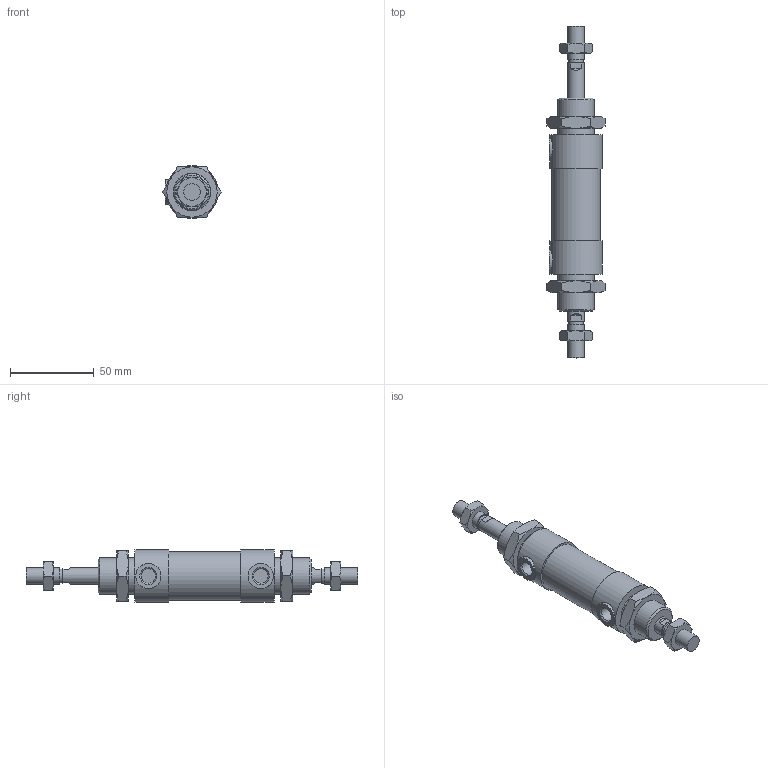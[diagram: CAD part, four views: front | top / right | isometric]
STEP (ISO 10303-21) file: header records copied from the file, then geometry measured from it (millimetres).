
FILE_DESCRIPTION((''),'2;1');
FILE_NAME('L:\Lib-3d\1200\CILINDRI\1232\1232_25_0015.stp','2006-01-05T14:35:48',('medicfa1'),(''),'Autodesk Inventor 10','Autodesk Inventor 10','');
FILE_SCHEMA(('AUTOMOTIVE_DESIGN { 1 0 10303 214 1 1 1 1 }'));
Length unit declared in the file: millimetre
Products named in the file (5): 1232_25_0015; C1232_25_15; S1232_25_15; 1200_25_05; 1200_25_06
Assembly tree (6 placements, depth 2):
  1232_25_0015
    C1232_25_15
    S1232_25_15
    1200_25_05  x2
    1200_25_06  x2
Bounding box: 34.64 x 198 x 31.5 mm (x, y, z)
Volume: 89100.4 mm3; surface area: 29107.1 mm2
Topology: 6 solids, 6 shells, 141 faces, 299 edges, 178 vertices
Faces by surface type: plane 62, cone 54, cylinder 15, bspline 10
Full cylindrical faces by diameter (mm): 8.7 x2, 8.8 x2, 10 x4, 15 x2, 22 x2, 29 x1, 31.5 x2
Entity records: 2620 total; most frequent: CARTESIAN_POINT 721, DIRECTION 390, ORIENTED_EDGE 324, AXIS2_PLACEMENT_3D 177, EDGE_CURVE 162, EDGE_LOOP 136, VERTEX_POINT 110, FACE_OUTER_BOUND 95
